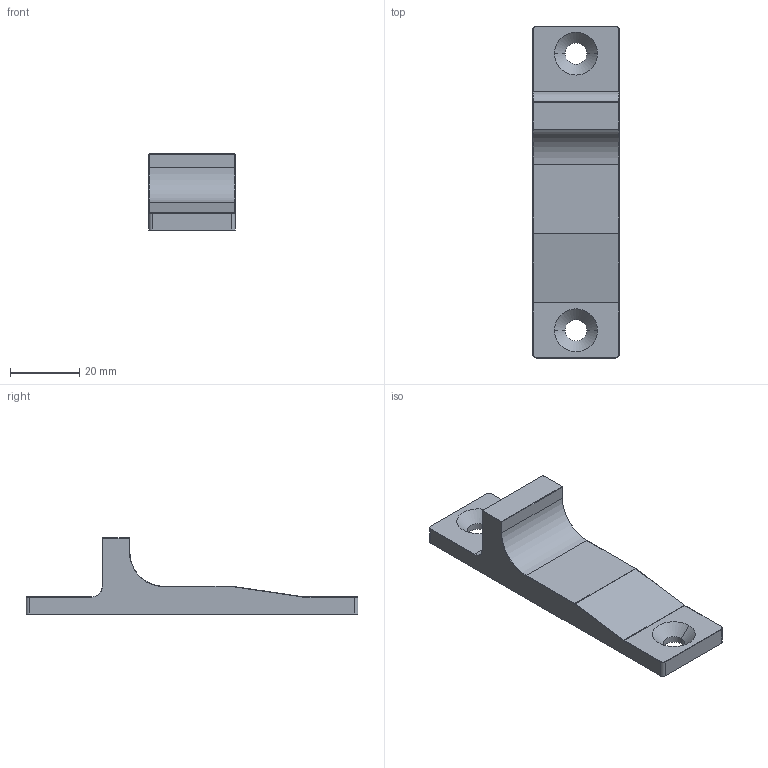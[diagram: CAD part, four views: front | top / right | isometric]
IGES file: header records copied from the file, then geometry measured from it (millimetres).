
Start section:  PTC IGES file: DFB-2020.igs
Global section: file name: DFB-2020.igs; native system: Creo Parametric by Parametric Technology Corporation; preprocessor: 2012360; author: xeon_3; organization: Unknown; date: 20131218.150340; units: millimetre
Bounding box: 25 x 96 x 22 mm (x, y, z)
Volume: 18427.3 mm3; surface area: 7207.8 mm2
Topology: 1 solids, 1 shells, 58 faces, 140 edges, 84 vertices
Faces by surface type: bspline 30, revolution 28
